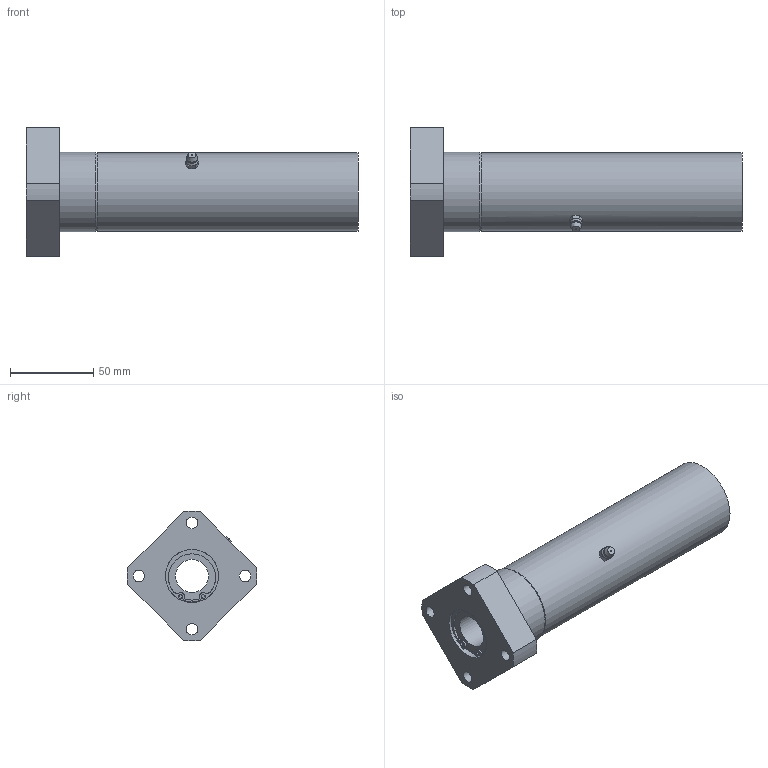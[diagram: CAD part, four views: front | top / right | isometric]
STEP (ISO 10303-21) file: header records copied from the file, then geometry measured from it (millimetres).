
FILE_DESCRIPTION((''),'2;1');
FILE_NAME('D:\製品 (図面)\カタログ用3D\リニアベアリング関連(改)\STEP形式\LFWL\LFWL20B.stp','2010-01-22T16:33:22',('Tsuchiya'),(''),'Autodesk Inventor 10','Autodesk Inventor 10','');
FILE_SCHEMA(('AUTOMOTIVE_DESIGN { 1 0 10303 214 1 1 1 1 }'));
Length unit declared in the file: millimetre
Products named in the file (1): LFWL20B
Bounding box: 200 x 77.92 x 77.92 mm (x, y, z)
Volume: 319788.5 mm3; surface area: 56967.4 mm2
Topology: 1 solids, 7 shells, 114 faces, 270 edges, 169 vertices
Faces by surface type: bspline 36, plane 35, cylinder 31, cone 8, sphere 2, torus 2
Full cylindrical faces by diameter (mm): 2.5 x2, 7 x4, 20 x2, 29 x2, 30.3 x2, 32 x8, 47 x1, 48 x1
Entity records: 3355 total; most frequent: CARTESIAN_POINT 975, DIRECTION 498, ORIENTED_EDGE 420, AXIS2_PLACEMENT_3D 221, EDGE_CURVE 210, EDGE_LOOP 188, VERTEX_POINT 150, CIRCLE 138
